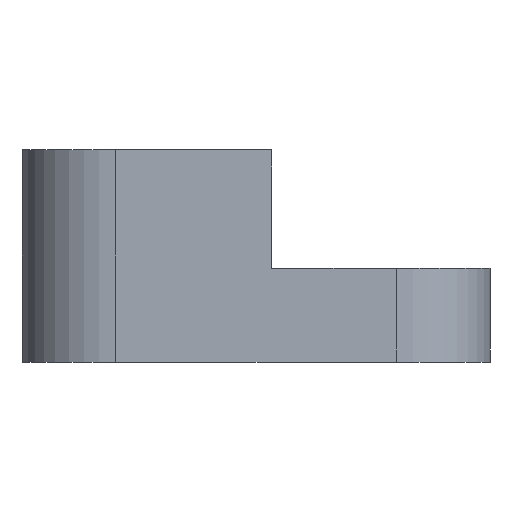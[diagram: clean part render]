
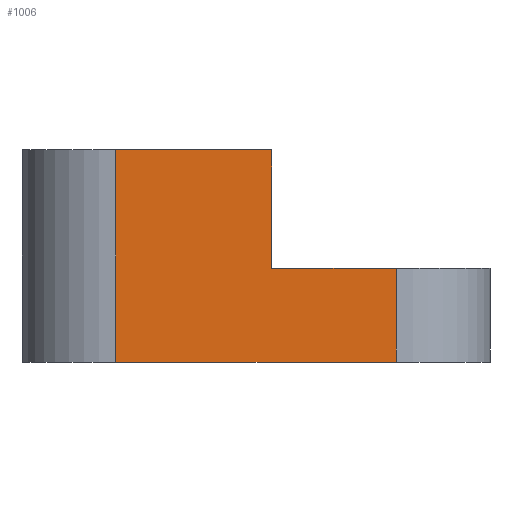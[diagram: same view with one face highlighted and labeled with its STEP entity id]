
A CAD part, left-side view. The second image highlights one B-rep face of the part: STEP entity #1006.
In plain terms, the highlighted planar face has unit normal (-1, 0, 0).
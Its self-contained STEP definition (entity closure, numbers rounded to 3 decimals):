
#700=CARTESIAN_POINT('',(-16.0,-0.5,6.8));
#701=VERTEX_POINT('',#700);
#708=CARTESIAN_POINT('',(-16.0,-0.5,3.));
#709=VERTEX_POINT('',#708);
#710=CARTESIAN_POINT('',(-16.0,-0.5,3.));
#711=DIRECTION('',(0.0,0.0,1.0));
#712=VECTOR('',#711,3.8);
#713=LINE('',#710,#712);
#714=EDGE_CURVE('',#709,#701,#713,.T.);
#746=CARTESIAN_POINT('',(-16.0,4.5,6.8));
#747=VERTEX_POINT('',#746);
#755=CARTESIAN_POINT('',(-16.0,-0.5,6.8));
#756=DIRECTION('',(0.0,1.0,0.0));
#757=VECTOR('',#756,5.);
#758=LINE('',#755,#757);
#759=EDGE_CURVE('',#701,#747,#758,.T.);
#778=CARTESIAN_POINT('',(-16.0,-4.5,3.));
#779=VERTEX_POINT('',#778);
#780=CARTESIAN_POINT('',(-16.0,-4.5,3.));
#781=DIRECTION('',(0.0,1.0,0.0));
#782=VECTOR('',#781,4.);
#783=LINE('',#780,#782);
#784=EDGE_CURVE('',#779,#709,#783,.T.);
#846=CARTESIAN_POINT('',(-16.0,4.5,0.0));
#847=VERTEX_POINT('',#846);
#855=CARTESIAN_POINT('',(-16.0,4.5,0.0));
#856=DIRECTION('',(0.0,0.0,1.0));
#857=VECTOR('',#856,6.8);
#858=LINE('',#855,#857);
#859=EDGE_CURVE('',#847,#747,#858,.T.);
#969=CARTESIAN_POINT('',(-16.0,-4.5,0.0));
#970=VERTEX_POINT('',#969);
#971=CARTESIAN_POINT('',(-16.0,-4.5,0.0));
#972=DIRECTION('',(0.0,0.0,1.0));
#973=VECTOR('',#972,3.);
#974=LINE('',#971,#973);
#975=EDGE_CURVE('',#970,#779,#974,.T.);
#988=CARTESIAN_POINT('',(-16.0,-4.5,0.0));
#989=DIRECTION('',(-1.0,0.0,0.0));
#990=DIRECTION('',(0.0,0.0,1.0));
#991=AXIS2_PLACEMENT_3D('',#988,#989,#990);
#992=PLANE('',#991);
#993=ORIENTED_EDGE('',*,*,#784,.T.);
#994=ORIENTED_EDGE('',*,*,#714,.T.);
#995=ORIENTED_EDGE('',*,*,#759,.T.);
#996=ORIENTED_EDGE('',*,*,#859,.F.);
#997=CARTESIAN_POINT('',(-16.0,-4.5,0.0));
#998=DIRECTION('',(0.0,1.0,0.0));
#999=VECTOR('',#998,9.);
#1000=LINE('',#997,#999);
#1001=EDGE_CURVE('',#970,#847,#1000,.T.);
#1002=ORIENTED_EDGE('',*,*,#1001,.F.);
#1003=ORIENTED_EDGE('',*,*,#975,.T.);
#1004=EDGE_LOOP('',(#993,#994,#995,#996,#1002,#1003));
#1005=FACE_OUTER_BOUND('',#1004,.T.);
#1006=ADVANCED_FACE('',(#1005),#992,.T.);
